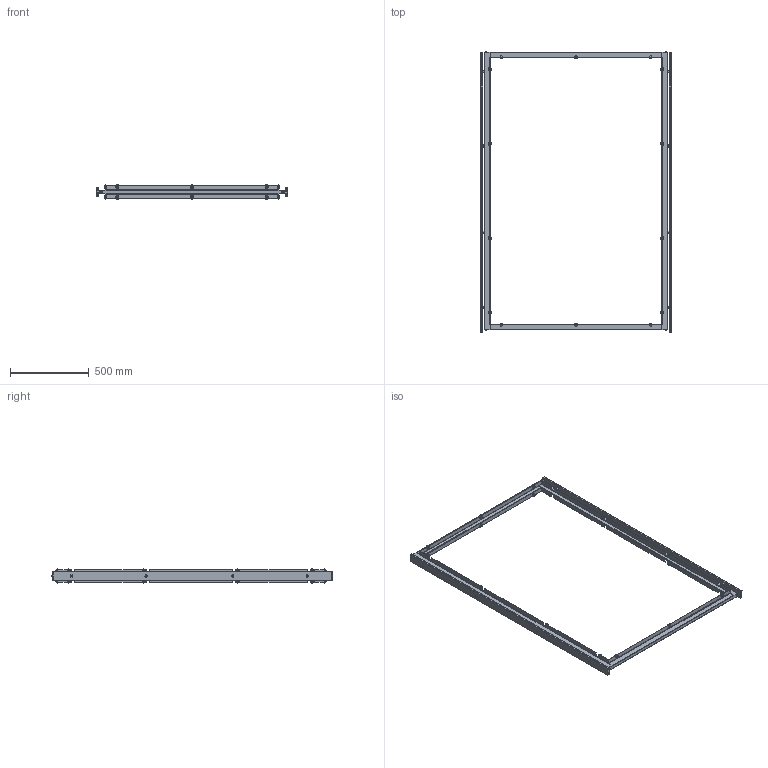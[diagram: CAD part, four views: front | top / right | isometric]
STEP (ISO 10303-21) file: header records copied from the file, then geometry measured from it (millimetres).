
FILE_DESCRIPTION (( 'STEP AP203' ), '1' );
FILE_NAME ('EUTP120180.STEP', '2023-12-11T09:40:57', ( '' ), ( '' ), 'SwSTEP 2.0', 'SolidWorks 2022', '' );
FILE_SCHEMA (( 'CONFIG_CONTROL_DESIGN' ));
Length unit declared in the file: millimetre
Products named in the file (15): piegatura_pannello_telaio_unione_post_ENUX_1800; piegatura_trav_orizz_unione_post_areta_1200; Tappo_9_ST_Default [ Vecchio ]; Rosetta_6.4x12.5x1.6_Rosetta_M6; distanziale_doppio_retro; Tappino_copriforo_verniciatura; rosetta_M8; EUTP120180; Vite_TCB+_M6x12; piegatura_montante_vert_unione_post_areta_1800; dado_spec_AT_M8; Vite_TCEI_M6x12; Assieme_pannello_unione_posteriore_ENUX_1800; vite_TCEI_M8x14_rib; Saldatura_telaio_unione_posteriore_Areta_1200x1800
Assembly tree (120 placements, depth 3):
  EUTP120180
    Saldatura_telaio_unione_posteriore_Areta_1200x1800
      piegatura_montante_vert_unione_post_areta_1800  x2
      piegatura_trav_orizz_unione_post_areta_1200  x2
    Tappo_9_ST_Default [ Vecchio ]  x8
    rosetta_M8  x28
    vite_TCEI_M8x14_rib  x28
    dado_spec_AT_M8  x28
    Assieme_pannello_unione_posteriore_ENUX_1800  x2
      piegatura_pannello_telaio_unione_post_ENUX_1800
      Vite_TCB+_M6x12
      distanziale_doppio_retro
      Rosetta_6.4x12.5x1.6_Rosetta_M6
      Vite_TCEI_M6x12
    Tappino_copriforo_verniciatura  x4
Bounding box: 1220.97 x 1782.85 x 91.32 mm (x, y, z)
Volume: 1735369.6 mm3; surface area: 2354077.4 mm2
Topology: 134 solids, 134 shells, 4324 faces, 10476 edges, 6556 vertices
Faces by surface type: plane 2180, cylinder 1248, bspline 520, cone 280, torus 72, sphere 24
Entity records: 19082 total; most frequent: CARTESIAN_POINT 3727, DIRECTION 2452, ORIENTED_EDGE 2136, EDGE_CURVE 1068, AXIS2_PLACEMENT_3D 909, VERTEX_POINT 661, LINE 634, VECTOR 634
